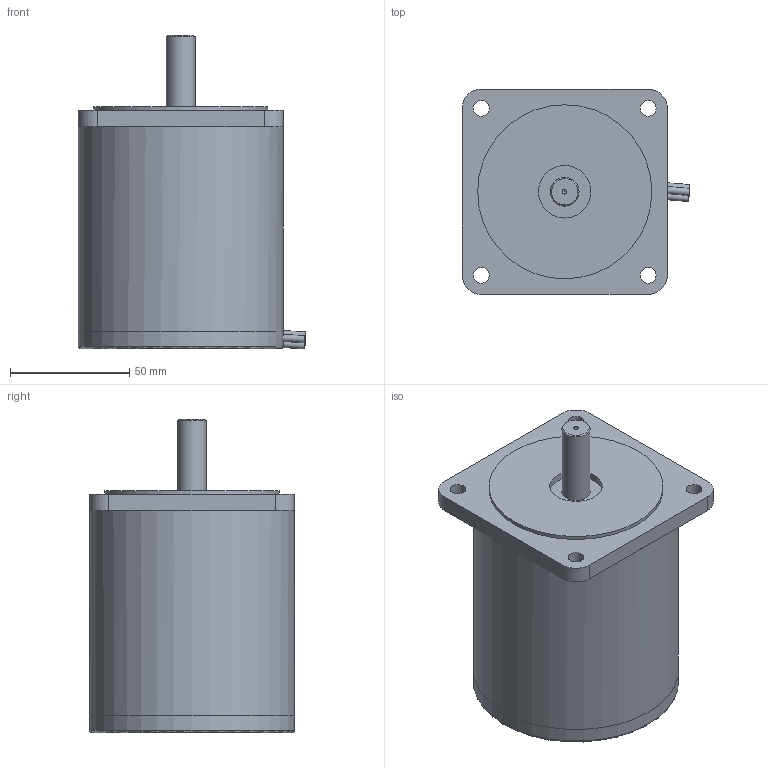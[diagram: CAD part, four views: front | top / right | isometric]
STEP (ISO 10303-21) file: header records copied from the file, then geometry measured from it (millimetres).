
FILE_DESCRIPTION((''),'2;1');
FILE_NAME('C:\Users\Reinhard\Documents\Inventor\Testschrittmotor\SM88\SM88.2L.stp','2012-11-12T20:28:07',('Reinhard'),(''),'Autodesk Inventor 2012','Autodesk Inventor 2012','');
FILE_SCHEMA(('CONFIG_CONTROL_DESIGN'));
Length unit declared in the file: millimetre
Products named in the file (1): SM88
Bounding box: 95.44 x 86 x 131.62 mm (x, y, z)
Volume: 127172.6 mm3; surface area: 78443.9 mm2
Topology: 1 solids, 1 shells, 63 faces, 156 edges, 93 vertices
Faces by surface type: cylinder 32, plane 28, cone 2, torus 1
Full cylindrical faces by diameter (mm): 2 x5, 6.6 x4, 12 x1, 22 x1, 73 x1, 78 x1, 82 x1, 86 x1
Entity records: 1937 total; most frequent: CARTESIAN_POINT 440, DIRECTION 321, ORIENTED_EDGE 270, AXIS2_PLACEMENT_3D 142, EDGE_CURVE 135, EDGE_LOOP 101, VERTEX_POINT 90, CIRCLE 72
